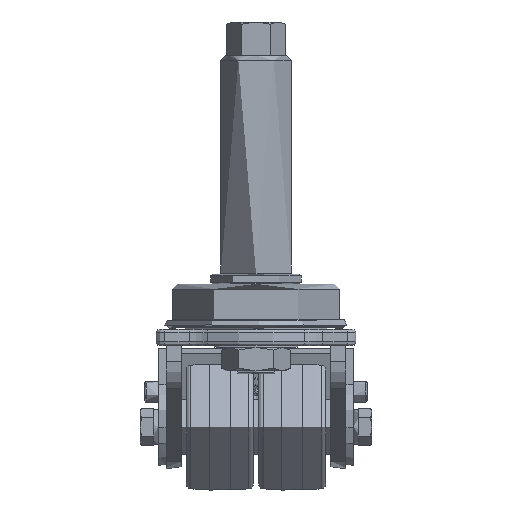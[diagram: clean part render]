
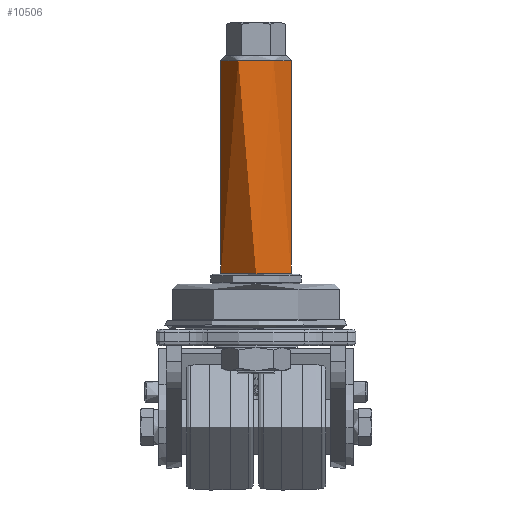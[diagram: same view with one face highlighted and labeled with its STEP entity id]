
A CAD part, top view. The second image highlights one B-rep face of the part: STEP entity #10506.
In plain terms, the highlighted cylindrical face has radius 21 mm (diameter 42 mm), a full revolution.
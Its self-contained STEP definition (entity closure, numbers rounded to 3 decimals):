
#1733=LINE('',#18602,#2606);
#2606=VECTOR('',#13780,21.);
#2724=CYLINDRICAL_SURFACE('',#11349,21.);
#3278=FACE_OUTER_BOUND('',#3963,.T.);
#3963=EDGE_LOOP('',(#9564,#9565,#9566,#9567,#9568));
#4351=CIRCLE('',#11344,21.);
#4353=CIRCLE('',#11347,21.);
#4354=CIRCLE('',#11348,21.);
#5290=VERTEX_POINT('',#18591);
#5292=VERTEX_POINT('',#18596);
#5293=VERTEX_POINT('',#18598);
#6741=EDGE_CURVE('',#5290,#5290,#4351,.T.);
#6744=EDGE_CURVE('',#5292,#5293,#4353,.T.);
#6745=EDGE_CURVE('',#5293,#5292,#4354,.T.);
#6746=EDGE_CURVE('',#5293,#5290,#1733,.T.);
#9564=ORIENTED_EDGE('',*,*,#6744,.F.);
#9565=ORIENTED_EDGE('',*,*,#6745,.F.);
#9566=ORIENTED_EDGE('',*,*,#6746,.T.);
#9567=ORIENTED_EDGE('',*,*,#6741,.F.);
#9568=ORIENTED_EDGE('',*,*,#6746,.F.);
#10506=ADVANCED_FACE('',(#3278),#2724,.T.);
#11344=AXIS2_PLACEMENT_3D('',#18592,#13767,#13768);
#11347=AXIS2_PLACEMENT_3D('',#18599,#13774,#13775);
#11348=AXIS2_PLACEMENT_3D('',#18600,#13776,#13777);
#11349=AXIS2_PLACEMENT_3D('',#18601,#13778,#13779);
#13767=DIRECTION('center_axis',(0.,-1.,0.));
#13768=DIRECTION('ref_axis',(-1.,0.,0.));
#13774=DIRECTION('center_axis',(0.,1.,0.));
#13775=DIRECTION('ref_axis',(1.,0.,0.));
#13776=DIRECTION('center_axis',(0.,1.,0.));
#13777=DIRECTION('ref_axis',(1.,0.,0.));
#13778=DIRECTION('center_axis',(0.,1.,0.));
#13779=DIRECTION('ref_axis',(-1.,0.,0.));
#13780=DIRECTION('',(0.,-1.,0.));
#18591=CARTESIAN_POINT('',(21.,31.,0.));
#18592=CARTESIAN_POINT('Origin',(0.,31.,0.));
#18596=CARTESIAN_POINT('',(-21.,158.,0.));
#18598=CARTESIAN_POINT('',(21.,158.,0.));
#18599=CARTESIAN_POINT('Origin',(0.,158.,0.));
#18600=CARTESIAN_POINT('Origin',(0.,158.,0.));
#18601=CARTESIAN_POINT('Origin',(0.,31.,0.));
#18602=CARTESIAN_POINT('',(21.,31.,0.));
